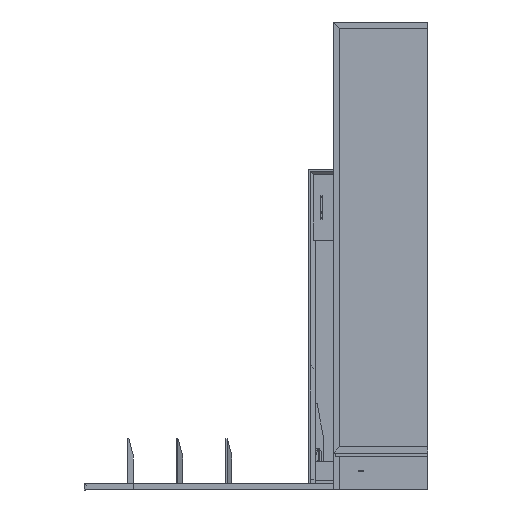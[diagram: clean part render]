
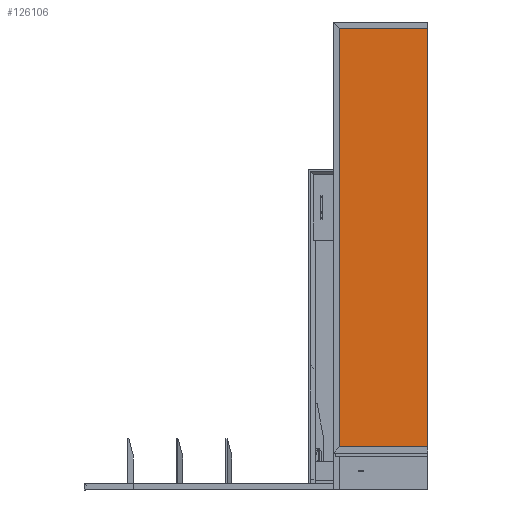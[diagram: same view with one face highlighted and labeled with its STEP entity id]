
A CAD part, left-side view. The second image highlights one B-rep face of the part: STEP entity #126106.
In plain terms, the highlighted planar face has unit normal (-1, 0, 0) as drawn and (0, 0, -1) by its records, which use the part's own axes.
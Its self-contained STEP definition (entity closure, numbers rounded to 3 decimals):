
#18396=FACE_OUTER_BOUND('',#25796,.T.);
#25796=EDGE_LOOP('',(#86547,#86548,#86549,#86550));
#33794=LINE('',#184535,#45319);
#33797=LINE('',#184541,#45322);
#33798=LINE('',#184543,#45323);
#33799=LINE('',#184544,#45324);
#45319=VECTOR('',#147596,0.394);
#45322=VECTOR('',#147601,0.394);
#45323=VECTOR('',#147602,0.394);
#45324=VECTOR('',#147603,0.394);
#56755=VERTEX_POINT('',#184531);
#56757=VERTEX_POINT('',#184534);
#56759=VERTEX_POINT('',#184540);
#56760=VERTEX_POINT('',#184542);
#68125=EDGE_CURVE('',#56757,#56755,#33794,.T.);
#68128=EDGE_CURVE('',#56759,#56755,#33797,.T.);
#68129=EDGE_CURVE('',#56760,#56759,#33798,.T.);
#68130=EDGE_CURVE('',#56760,#56757,#33799,.T.);
#86547=ORIENTED_EDGE('',*,*,#68128,.F.);
#86548=ORIENTED_EDGE('',*,*,#68129,.F.);
#86549=ORIENTED_EDGE('',*,*,#68130,.T.);
#86550=ORIENTED_EDGE('',*,*,#68125,.T.);
#122452=PLANE('',#134638);
#126106=ADVANCED_FACE('',(#18396),#122452,.T.);
#134638=AXIS2_PLACEMENT_3D('',#184539,#147599,#147600);
#147596=DIRECTION('',(-1.,0.,0.));
#147599=DIRECTION('center_axis',(0.,0.,-1.));
#147600=DIRECTION('ref_axis',(0.,-1.,0.));
#147601=DIRECTION('',(0.,-1.,0.));
#147602=DIRECTION('',(-1.,0.,0.));
#147603=DIRECTION('',(0.,-1.,0.));
#184531=CARTESIAN_POINT('',(1.5,-21.5,-24.));
#184534=CARTESIAN_POINT('',(103.5,-21.5,-24.));
#184535=CARTESIAN_POINT('',(103.5,-21.5,-24.));
#184539=CARTESIAN_POINT('Origin',(103.5,0.,-24.));
#184540=CARTESIAN_POINT('',(1.5,0.,-24.));
#184541=CARTESIAN_POINT('',(1.5,-5.375,-24.));
#184542=CARTESIAN_POINT('',(103.5,0.,-24.));
#184543=CARTESIAN_POINT('',(103.5,0.,-24.));
#184544=CARTESIAN_POINT('',(103.5,0.,-24.));
